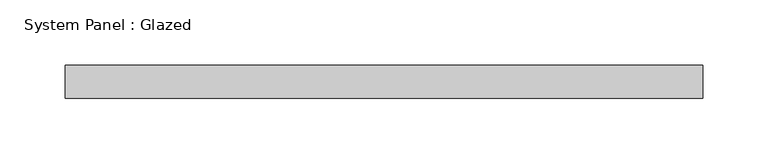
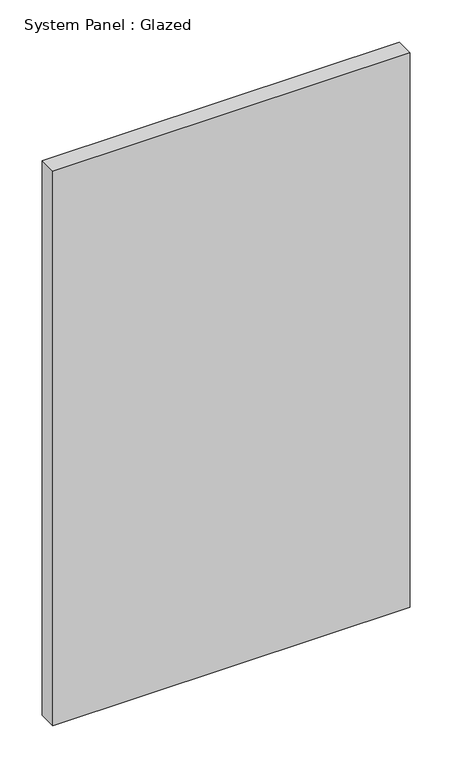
"""IFC4 building model written with IfcOpenShell, lengths in millimetres: plate geometry, System Panel : Glazed."""

from ifc_helpers import new_model, si_unit, origin, origin_with_axes, place, context, project, spatial, polyline, outline, extrude, source, transform, mapped, element, save


def system_panel_glazed_92b1b0dd(model_context):
    return source(origin(), model_context, "Body", "SweptSolid", [
        extrude(outline(polyline([(244.475, 19.05), (-244.475, 19.05), (-244.475, 44.45), (244.475, 44.45), (244.475, 19.05)])), origin_with_axes(), (0.0, 0.0, 1.0), 802.4190025),
    ])


if __name__ == "__main__":
    model = new_model("IFC4")
    model_context = context("Model", 3, world=origin())
    ifc_project = project(units=[si_unit("LENGTHUNIT", "METRE", prefix="MILLI")], contexts=[model_context])
    site = spatial("IfcSite", under=ifc_project)
    building = spatial("IfcBuilding", under=site)
    placement = place(None, origin())
    system_panel_glazed_shape = system_panel_glazed_92b1b0dd(model_context)
    element("IfcPlate", 1, ObjectType="System Panel : Glazed", at=placement, inside=building, context=model_context, shape_type="MappedRepresentation", body=[
        mapped(system_panel_glazed_shape, transform((0.0, 0.0, 0.0), x_axis=(1.0, 0.0, 0.0), y_axis=(0.0, 1.0, 0.0), z_axis=(0.0, 0.0, 1.0))),
    ])
    save(model, "model.ifc")
